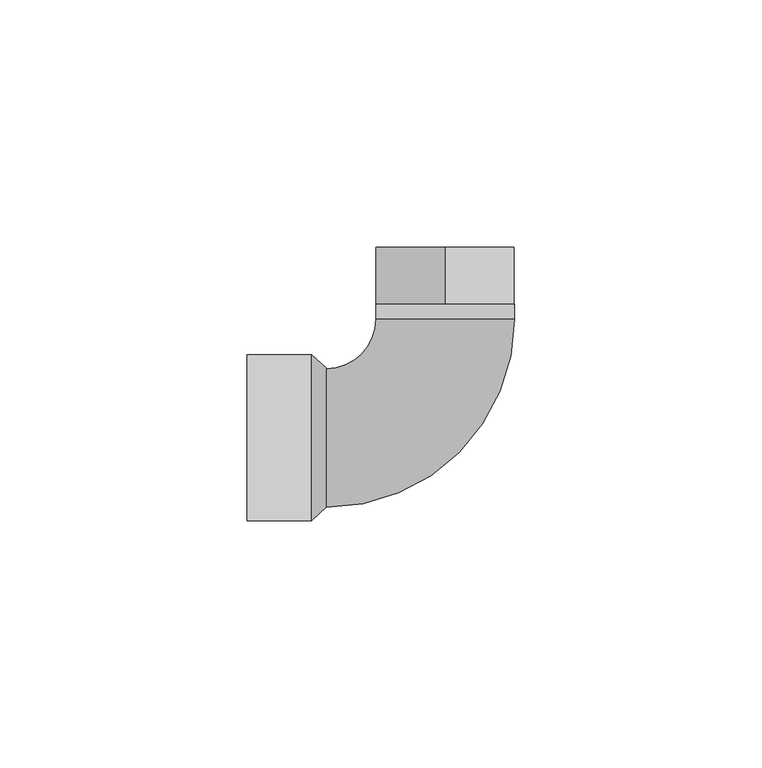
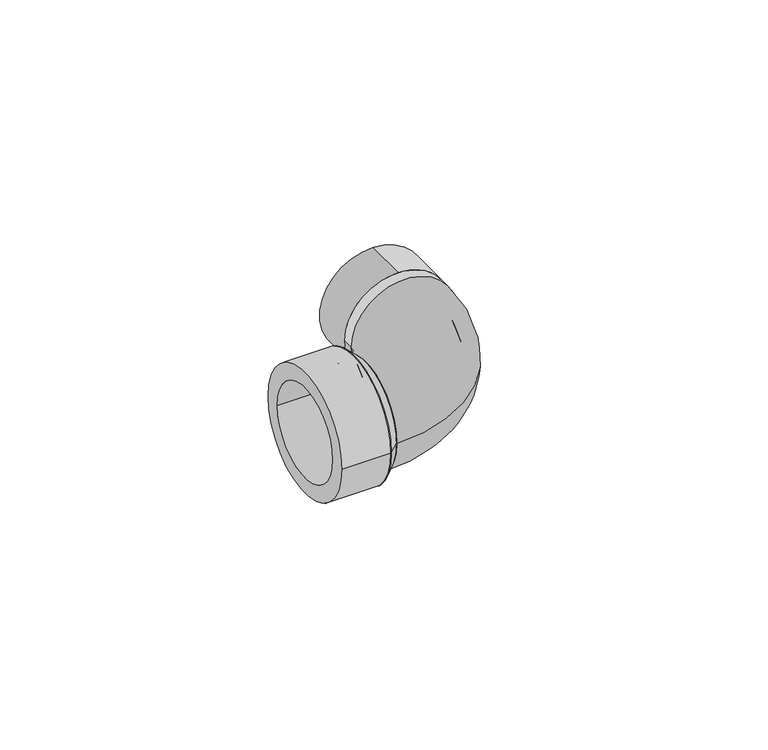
"""IFC4 building model written with IfcOpenShell, lengths in millimetres: pipe fitting geometry, 40_Угольник переходной 90 : Серый цвет."""

from ifc_helpers import new_model, si_unit, point, frame, frame_2d, origin, place, context, project, spatial, polyline, circle_curve, ellipse_curve, trimmed, segment, composite_curve, outline, extrude, source, transform, mapped, element, save
from ifc_brep_helpers import plane_surface, revolved_surface, advanced_brep


def pipe_fitting_83a6b1b9(model_context):
    return source(origin(), model_context, "Body", "SolidModel", [
        advanced_brep(
        [(-10.35, 24.0, 0.0), (17.65, 24.0, 0.0), (-6.35, 24.0, 0.0), (13.65, 24.0, 0.0), (-20.35, 14.0, 0.0), (-20.35, -14.0, 0.0), (-20.35, 10.0, 0.0), (-20.35, -10.0, 0.0)],
        [
            (0, 1, circle_curve(frame((3.65, 24.0, 0.0), z_axis=(0.0, 1.0, 0.0), x_axis=(1.0, 0.0, 0.0)), 14.0)),
            (1, 0, circle_curve(frame((3.65, 24.0, 0.0), z_axis=(0.0, 1.0, 0.0), x_axis=(1.0, 0.0, 0.0)), 14.0)),
            (2, 3, circle_curve(frame((3.65, 24.0, 0.0), z_axis=(0.0, -1.0, 0.0), x_axis=(1.0, 0.0, 0.0)), 10.0)),
            (3, 2, circle_curve(frame((3.65, 24.0, 0.0), z_axis=(0.0, -1.0, 0.0), x_axis=(1.0, 0.0, 0.0)), 10.0)),
            (4, 5, circle_curve(frame((-20.35, 0.0, 0.0), z_axis=(-1.0, 0.0, 0.0), x_axis=(0.0, -1.0, 0.0)), 14.0)),
            (5, 4, circle_curve(frame((-20.35, 0.0, 0.0), z_axis=(-1.0, 0.0, 0.0), x_axis=(0.0, -1.0, 0.0)), 14.0)),
            (6, 7, circle_curve(frame((-20.35, 0.0, 0.0), z_axis=(1.0, 0.0, 0.0), x_axis=(0.0, -1.0, 0.0)), 10.0)),
            (7, 6, circle_curve(frame((-20.35, 0.0, 0.0), z_axis=(1.0, 0.0, 0.0), x_axis=(0.0, -1.0, 0.0)), 10.0)),
            (5, 1, circle_curve(frame((-20.35, 24.0, 0.0), z_axis=(0.0, 0.0, 1.0), x_axis=(1.0, 0.0, 0.0)), 38.0)),
            (0, 4, circle_curve(frame((-20.35, 24.0, 0.0), z_axis=(0.0, 0.0, -1.0), x_axis=(1.0, 0.0, 0.0)), 10.0)),
            (7, 3, circle_curve(frame((-20.35, 24.0, 0.0), z_axis=(0.0, 0.0, 1.0), x_axis=(1.0, 0.0, 0.0)), 34.0)),
            (2, 6, circle_curve(frame((-20.35, 24.0, 0.0), z_axis=(0.0, 0.0, -1.0), x_axis=(1.0, 0.0, 0.0)), 14.0)),
        ],
        [
            plane_surface(frame((3.65, 24.0, 0.0), z_axis=(0.0, 1.0, 0.0), x_axis=(0.0, 0.0, 1.0))),
            plane_surface(frame((-20.35, 0.0, 0.0), z_axis=(-1.0, 0.0, 0.0), x_axis=(0.0, 0.0, 1.0))),
            revolved_surface(trimmed(ellipse_curve(frame((3.65, 24.0, 0.0), z_axis=(0.0, 1.0, 0.0), x_axis=(1.0, 0.0, 0.0)), 14.0, 14.0), [point((-10.35, 24.0, 0.0))], [point((17.65, 24.0, 0.0))], True, "CARTESIAN"), (-20.35, 24.0, 0.0), (0.0, 0.0, -1.0)),
            revolved_surface(trimmed(ellipse_curve(frame((3.65, 24.0, 0.0), z_axis=(0.0, 1.0, 0.0), x_axis=(1.0, 0.0, 0.0)), 14.0, 14.0), [point((17.65, 24.0, 0.0))], [point((-10.35, 24.0, 0.0))], True, "CARTESIAN"), (-20.35, 24.0, 0.0), (0.0, 0.0, -1.0)),
            revolved_surface(trimmed(ellipse_curve(frame((3.65, 24.0, 0.0), z_axis=(0.0, -1.0, 0.0), x_axis=(1.0, 0.0, 0.0)), 10.0, 10.0), [point((-6.35, 24.0, 0.0))], [point((13.65, 24.0, 0.0))], True, "CARTESIAN"), (-20.35, 24.0, 0.0), (0.0, 0.0, -1.0)),
            revolved_surface(trimmed(ellipse_curve(frame((3.65, 24.0, 0.0), z_axis=(0.0, -1.0, 0.0), x_axis=(1.0, 0.0, 0.0)), 10.0, 10.0), [point((13.65, 24.0, 0.0))], [point((-6.35, 24.0, 0.0))], True, "CARTESIAN"), (-20.35, 24.0, 0.0), (0.0, 0.0, -1.0)),
        ],
        [
            (0, [[1, 2], [3, 4]]),
            (1, [[5, 6], [7, 8]]),
            (2, [[9, -1, 10, -6]]),
            (3, [[-10, -2, -9, -5]]),
            (4, [[11, -3, 12, -8]]),
            (5, [[-12, -4, -11, -7]]),
        ],
    ),
        advanced_brep(
        [(-20.35, -13.95, 0.0), (-20.35, 14.05, 0.0), (-20.35, 10.05, 0.0), (-20.35, -9.95, 0.0), (-23.35, -16.7, 0.0), (-23.35, 16.8, 0.0), (-23.35, -12.45, 0.0), (-23.35, 12.55, 0.0)],
        [
            (0, 1, circle_curve(frame((-20.35, 0.05, 0.0), z_axis=(1.0, 0.0, 0.0), x_axis=(0.0, -1.0, 0.0)), 14.0)),
            (1, 0, circle_curve(frame((-20.35, 0.05, 0.0), z_axis=(1.0, 0.0, 0.0), x_axis=(0.0, 1.0, 0.0)), 14.0)),
            (2, 3, circle_curve(frame((-20.35, 0.05, 0.0), z_axis=(-1.0, 0.0, -1.2355450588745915e-12), x_axis=(0.0, -1.0, 0.0)), 10.0)),
            (3, 2, circle_curve(frame((-20.35, 0.05, 0.0), z_axis=(-1.0, 0.0, -1.2355450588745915e-12), x_axis=(0.0, 1.0, 0.0)), 10.0)),
            (4, 5, circle_curve(frame((-23.35, 0.05, 0.0), z_axis=(-1.0, 0.0, 0.0), x_axis=(0.0, 1.0, 0.0)), 16.75)),
            (5, 4, circle_curve(frame((-23.35, 0.05, 0.0), z_axis=(-1.0, 0.0, 0.0), x_axis=(0.0, -1.0, 0.0)), 16.75)),
            (6, 7, circle_curve(frame((-23.35, 0.05, 0.0), z_axis=(1.0, 0.0, 1.2355450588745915e-12), x_axis=(0.0, -1.0, 0.0)), 12.5)),
            (7, 6, circle_curve(frame((-23.35, 0.05, 0.0), z_axis=(1.0, 0.0, 1.2355450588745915e-12), x_axis=(0.0, 1.0, 0.0)), 12.5)),
            (0, 4),
            (5, 1),
            (6, 3),
            (2, 7),
        ],
        [
            plane_surface(frame((-20.35, 0.05, 0.0), z_axis=(1.0, 0.0, 0.0), x_axis=(0.0, 0.0, -1.0))),
            plane_surface(frame((-23.35, 0.05, 0.0), z_axis=(-1.0, 0.0, 0.0), x_axis=(0.0, 0.0, -1.0))),
            revolved_surface(polyline([(-20.35, -13.950000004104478, 0.0), (-23.35, -16.7, 0.0)]), (-5.0772727, 0.05, 0.0), (-1.0, 0.0, 0.0)),
            revolved_surface(polyline([(-20.35, 14.05000000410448, 0.0), (-23.35, 16.8, 0.0)]), (-5.0772727, 0.05, 0.0), (-1.0, 0.0, 0.0)),
            revolved_surface(polyline([(-23.35, -12.45, 0.0), (-20.35, -9.95, 0.0)]), (-8.35, 0.05, 0.0), (-1.0, 0.0, -1.2355450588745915e-12)),
        ],
        [
            (0, [[1, 2], [3, 4]]),
            (1, [[5, 6], [7, 8]]),
            (2, [[-1, 9, -6, 10]]),
            (3, [[-2, -10, -5, -9]]),
            (4, [[11, -3, 12, -7]]),
            (4, [[-11, -8, -12, -4]]),
        ],
    ),
        extrude(outline(composite_curve([segment(trimmed(circle_curve(frame_2d((0.0, 3.65)), 14.0), [point((0.0, -10.35))], [point((0.0, 17.65))], False, "CARTESIAN"), True, "CONTINUOUS"), segment(trimmed(circle_curve(frame_2d((0.0, 3.65)), 14.0), [point((0.0, 17.65))], [point((0.0, -10.35))], False, "CARTESIAN"), True, "CONTINUOUS")], self_intersect=False), holes=[composite_curve([segment(trimmed(circle_curve(frame_2d((0.0, 3.65)), 10.0), [point((0.0, 13.65))], [point((0.0, -6.35))], True, "CARTESIAN"), True, "CONTINUOUS"), segment(trimmed(circle_curve(frame_2d((0.0, 3.65)), 10.0), [point((0.0, -6.35))], [point((0.0, 13.65))], True, "CARTESIAN"), True, "CONTINUOUS")], self_intersect=False)]), frame((0.0, 24.0, 0.0), z_axis=(0.0, 1.0, 0.0), x_axis=(0.0, 0.0, 1.0)), (0.0, 0.0, 1.0), 3.0),
        extrude(outline(composite_curve([segment(trimmed(circle_curve(frame_2d((0.0, 3.65)), 14.0), [point((-14.0, 3.65))], [point((14.0, 3.65))], False, "CARTESIAN"), True, "CONTINUOUS"), segment(trimmed(circle_curve(frame_2d((0.0, 3.65)), 14.0), [point((14.0, 3.65))], [point((-14.0, 3.65))], False, "CARTESIAN"), True, "CONTINUOUS")], self_intersect=False), holes=[composite_curve([segment(trimmed(circle_curve(frame_2d((0.0, 3.65)), 10.0), [point((-10.0, 3.65))], [point((10.0, 3.65))], True, "CARTESIAN"), True, "CONTINUOUS"), segment(trimmed(circle_curve(frame_2d((0.0, 3.65)), 10.0), [point((10.0, 3.65))], [point((-10.0, 3.65))], True, "CARTESIAN"), True, "CONTINUOUS")], self_intersect=False)]), frame((0.0, 27.0, 0.0), z_axis=(0.0, 1.0, 0.0), x_axis=(0.0, 0.0, 1.0)), (0.0, 0.0, 1.0), 11.5),
        extrude(outline(composite_curve([segment(trimmed(circle_curve(frame_2d((0.05, 0.0)), 16.75), [point((-16.7, 0.0))], [point((16.8, 0.0))], False, "CARTESIAN"), True, "CONTINUOUS"), segment(trimmed(circle_curve(frame_2d((0.05, 0.0)), 16.75), [point((16.8, 0.0))], [point((-16.7, 0.0))], False, "CARTESIAN"), True, "CONTINUOUS")], self_intersect=False), holes=[composite_curve([segment(trimmed(circle_curve(frame_2d((0.05, 0.0)), 12.5), [point((-12.45, 0.0))], [point((12.55, 0.0))], True, "CARTESIAN"), True, "CONTINUOUS"), segment(trimmed(circle_curve(frame_2d((0.05, 0.0)), 12.5), [point((12.55, 0.0))], [point((-12.45, 0.0))], True, "CARTESIAN"), True, "CONTINUOUS")], self_intersect=False)]), frame((-36.35, 0.0, 0.0), z_axis=(1.0, 0.0, 0.0), x_axis=(0.0, 1.0, 0.0)), (0.0, 0.0, 1.0), 13.0),
    ])


if __name__ == "__main__":
    model = new_model("IFC4")
    model_context = context("Model", 3, world=origin())
    ifc_project = project(units=[si_unit("LENGTHUNIT", "METRE", prefix="MILLI")], contexts=[model_context])
    site = spatial("IfcSite", under=ifc_project)
    building = spatial("IfcBuilding", under=site)
    placement = place(None, origin())
    pipe_fitting_shape = pipe_fitting_83a6b1b9(model_context)
    element("IfcPipeFitting", 1, ObjectType="40_Угольник переходной 90 : Серый цвет", at=placement, inside=building, context=model_context, shape_type="MappedRepresentation", body=[
        mapped(pipe_fitting_shape, transform((0.0, 0.0, 0.0), x_axis=(1.0, 0.0, 0.0), y_axis=(0.0, 1.0, 0.0), z_axis=(0.0, 0.0, 1.0))),
    ])
    save(model, "model.ifc")
